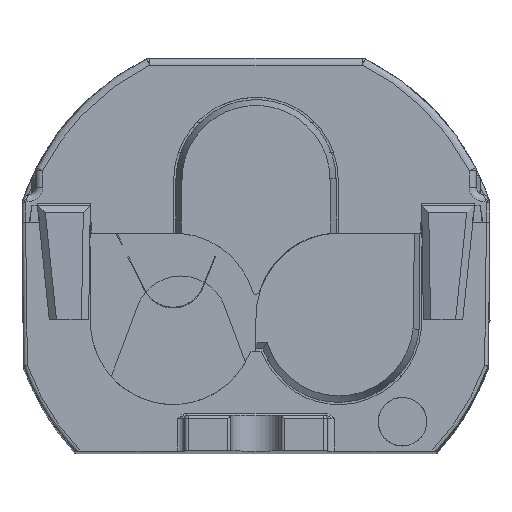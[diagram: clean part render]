
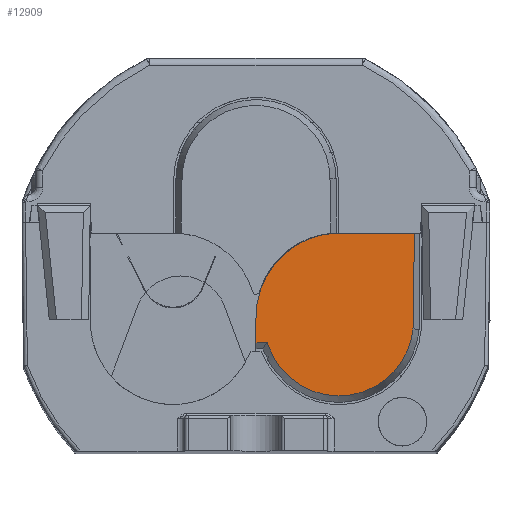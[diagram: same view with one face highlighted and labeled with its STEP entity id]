
A CAD part, top view. The second image highlights one B-rep face of the part: STEP entity #12909.
In plain terms, the highlighted planar face has unit normal (0, 0.009, 1).
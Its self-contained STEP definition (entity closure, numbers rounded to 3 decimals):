
#359 = DIRECTION ( 'NONE',  ( 0., -1., 0.009 ) ) ;
#859 = CARTESIAN_POINT ( 'NONE',  ( 3.543, 9.502, 106.379 ) ) ;
#921 = CARTESIAN_POINT ( 'NONE',  ( 10.185, 5.81, 106.411 ) ) ;
#985 = CARTESIAN_POINT ( 'NONE',  ( 17.319, 7.427, 106.397 ) ) ;
#1521 = CARTESIAN_POINT ( 'NONE',  ( 0., 16.75, 106.316 ) ) ;
#1586 = CARTESIAN_POINT ( 'NONE',  ( 0., 23.633, 106.256 ) ) ;
#1820 = VERTEX_POINT ( 'NONE', #8852 ) ;
#1853 = CARTESIAN_POINT ( 'NONE',  ( 0., 11.668, 106.36 ) ) ;
#2018 = DIRECTION ( 'NONE',  ( 1., 0., 0. ) ) ;
#2131 = PLANE ( 'NONE',  #12994 ) ;
#2404 = CARTESIAN_POINT ( 'NONE',  ( 4.145, 8.835, 106.385 ) ) ;
#2476 = CARTESIAN_POINT ( 'NONE',  ( 11.371, 5.705, 106.412 ) ) ;
#2549 = CARTESIAN_POINT ( 'NONE',  ( 18.509, 8.319, 106.389 ) ) ;
#3100 = CARTESIAN_POINT ( 'NONE',  ( 4.867, 28.5, 106.213 ) ) ;
#3243 = LINE ( 'NONE', #1853, #10980 ) ;
#3652 = CARTESIAN_POINT ( 'NONE',  ( -30.25, 30., 106.2 ) ) ;
#3693 = CARTESIAN_POINT ( 'NONE',  ( 11.75, 28.5, 106.213 ) ) ;
#3917 = CARTESIAN_POINT ( 'NONE',  ( 5.253, 7.842, 106.393 ) ) ;
#3982 = CARTESIAN_POINT ( 'NONE',  ( 12.865, 5.792, 106.411 ) ) ;
#4041 = CARTESIAN_POINT ( 'NONE',  ( 19.752, 9.624, 106.378 ) ) ;
#4224 = VERTEX_POINT ( 'NONE', #3693 ) ;
#4418 = ORIENTED_EDGE ( 'NONE', *, *, #11821, .F. ) ;
#5196 = DIRECTION ( 'NONE',  ( 0., -1., 0.009 ) ) ;
#5391 = CARTESIAN_POINT ( 'NONE',  ( 1.768, 12.604, 106.352 ) ) ;
#5458 = CARTESIAN_POINT ( 'NONE',  ( 6.257, 7.179, 106.399 ) ) ;
#5525 = CARTESIAN_POINT ( 'NONE',  ( 13.753, 5.941, 106.41 ) ) ;
#5592 = CARTESIAN_POINT ( 'NONE',  ( 20.745, 11.108, 106.365 ) ) ;
#6157 = CARTESIAN_POINT ( 'NONE',  ( -30.25, 28.5, 106.213 ) ) ;
#6269 = CARTESIAN_POINT ( 'NONE',  ( 0., 13.16, 106.347 ) ) ;
#6629 = CARTESIAN_POINT ( 'NONE',  ( 0.545, 13.16, 106.347 ) ) ;
#6954 = CARTESIAN_POINT ( 'NONE',  ( 1.993, 12.047, 106.357 ) ) ;
#7022 = CARTESIAN_POINT ( 'NONE',  ( 7.047, 6.755, 106.403 ) ) ;
#7096 = CARTESIAN_POINT ( 'NONE',  ( 14.905, 6.242, 106.407 ) ) ;
#7161 = CARTESIAN_POINT ( 'NONE',  ( 21.475, 12.755, 106.35 ) ) ;
#7265 = LINE ( 'NONE', #6157, #15016 ) ;
#7331 = LINE ( 'NONE', #6629, #19136 ) ;
#7528 = VECTOR ( 'NONE', #14256, 1000. ) ;
#7959 = ORIENTED_EDGE ( 'NONE', *, *, #9482, .T. ) ;
#7981 = LINE ( 'NONE', #12691, #7528 ) ;
#8509 = CARTESIAN_POINT ( 'NONE',  ( 2.512, 10.973, 106.366 ) ) ;
#8577 = CARTESIAN_POINT ( 'NONE',  ( 8.425, 6.193, 106.408 ) ) ;
#8634 = CARTESIAN_POINT ( 'NONE',  ( 16.282, 6.828, 106.402 ) ) ;
#8704 = CARTESIAN_POINT ( 'NONE',  ( 21.911, 14.486, 106.335 ) ) ;
#8852 = CARTESIAN_POINT ( 'NONE',  ( 0., 16.75, 106.316 ) ) ;
#9482 = EDGE_CURVE ( 'NONE', #18502, #14978, #13937, .T. ) ;
#9986 = CARTESIAN_POINT ( 'NONE',  ( 1.542, 13.16, 106.347 ) ) ;
#9991 = ORIENTED_EDGE ( 'NONE', *, *, #18332, .T. ) ;
#10060 = CARTESIAN_POINT ( 'NONE',  ( 3.354, 9.738, 106.377 ) ) ;
#10122 = CARTESIAN_POINT ( 'NONE',  ( 9.594, 5.907, 106.41 ) ) ;
#10195 = CARTESIAN_POINT ( 'NONE',  ( 17.068, 7.267, 106.398 ) ) ;
#10275 = CARTESIAN_POINT ( 'NONE',  ( 21.973, 15.086, 106.33 ) ) ;
#10980 = VECTOR ( 'NONE', #359, 1000. ) ;
#11366 = ORIENTED_EDGE ( 'NONE', *, *, #17793, .T. ) ;
#11617 = CARTESIAN_POINT ( 'NONE',  ( 3.939, 9.051, 106.383 ) ) ;
#11690 = CARTESIAN_POINT ( 'NONE',  ( 10.481, 5.774, 106.411 ) ) ;
#11763 = CARTESIAN_POINT ( 'NONE',  ( 18.051, 7.938, 106.393 ) ) ;
#11821 = EDGE_CURVE ( 'NONE', #4224, #17946, #7265, .T. ) ;
#12691 = CARTESIAN_POINT ( 'NONE',  ( 22.228, 32.048, 106.182 ) ) ;
#12893 = CARTESIAN_POINT ( 'NONE',  ( 1.542, 13.16, 106.347 ) ) ;
#12909 = ADVANCED_FACE ( 'NONE', ( #13902 ), #2131, .T. ) ;
#12994 = AXIS2_PLACEMENT_3D ( 'NONE', #3652, #14465, #5196 ) ;
#13186 = CARTESIAN_POINT ( 'NONE',  ( 4.79, 8.216, 106.39 ) ) ;
#13249 = CARTESIAN_POINT ( 'NONE',  ( 11.967, 5.709, 106.412 ) ) ;
#13323 = CARTESIAN_POINT ( 'NONE',  ( 19.365, 9.166, 106.382 ) ) ;
#13327 = VERTEX_POINT ( 'NONE', #6269 ) ;
#13902 = FACE_OUTER_BOUND ( 'NONE', #17386, .T. ) ;
#13925 = CARTESIAN_POINT ( 'NONE',  ( 11.75, 28.5, 106.213 ) ) ;
#13937 = B_SPLINE_CURVE_WITH_KNOTS ( 'NONE', 3,
 ( #9986, #16231, #5391, #6954, #17779, #8509, #19287, #10060, #859, #11617, #2404, #13186, #3917, #14739, #5458, #16302, #7022, #17833, #8577, #19360, #10122, #921, #11690, #2476, #13249, #3982, #14812, #5525, #16365, #7096, #17904, #8634, #19427, #10195, #985, #11763, #2549, #13323, #4041, #14885, #5592, #16420, #7161, #17980, #8704, #19491 ),
 .UNSPECIFIED., .F., .F.,
 ( 4, 2, 2, 2, 2, 2, 2, 2, 2, 2, 2, 2, 2, 2, 2, 2, 2, 2, 2, 2, 2, 2, 4 ),
 ( 0.125, 0.126, 0.127, 0.129, 0.13, 0.131, 0.133, 0.134, 0.134, 0.136, 0.137, 0.138, 0.14, 0.141, 0.142, 0.144, 0.145, 0.145, 0.147, 0.149, 0.151, 0.153, 0.155 ),
 .UNSPECIFIED. ) ;
#14256 = DIRECTION ( 'NONE',  ( 0.015, 1., -0.009 ) ) ;
#14465 = DIRECTION ( 'NONE',  ( 0., 0.009, 1. ) ) ;
#14739 = CARTESIAN_POINT ( 'NONE',  ( 5.999, 7.338, 106.398 ) ) ;
#14812 = CARTESIAN_POINT ( 'NONE',  ( 13.164, 5.834, 106.411 ) ) ;
#14885 = CARTESIAN_POINT ( 'NONE',  ( 20.441, 10.594, 106.369 ) ) ;
#14978 = VERTEX_POINT ( 'NONE', #10275 ) ;
#15016 = VECTOR ( 'NONE', #15414, 1000. ) ;
#15414 = DIRECTION ( 'NONE',  ( 1., 0., 0. ) ) ;
#15973 =( BOUNDED_CURVE ( )  B_SPLINE_CURVE ( 3, ( #1521, #1586, #3100, #13925 ),
 .UNSPECIFIED., .F., .F. ) 
 B_SPLINE_CURVE_WITH_KNOTS ( ( 4, 4 ),
 ( 1.571, 3.142 ),
 .UNSPECIFIED. ) 
 CURVE ( )  GEOMETRIC_REPRESENTATION_ITEM ( )  RATIONAL_B_SPLINE_CURVE ( ( 1., 0.805, 0.805, 1. ) ) 
 REPRESENTATION_ITEM ( '' )  );
#16154 = ORIENTED_EDGE ( 'NONE', *, *, #18790, .F. ) ;
#16231 = CARTESIAN_POINT ( 'NONE',  ( 1.655, 12.882, 106.349 ) ) ;
#16302 = CARTESIAN_POINT ( 'NONE',  ( 6.781, 6.888, 106.402 ) ) ;
#16365 = CARTESIAN_POINT ( 'NONE',  ( 14.043, 6.007, 106.409 ) ) ;
#16420 = CARTESIAN_POINT ( 'NONE',  ( 21.265, 12.195, 106.355 ) ) ;
#17386 = EDGE_LOOP ( 'NONE', ( #16154, #11366, #9991, #7959, #19541, #4418 ) ) ;
#17779 = CARTESIAN_POINT ( 'NONE',  ( 2.113, 11.773, 106.359 ) ) ;
#17793 = EDGE_CURVE ( 'NONE', #1820, #13327, #3243, .T. ) ;
#17833 = CARTESIAN_POINT ( 'NONE',  ( 7.862, 6.389, 106.406 ) ) ;
#17904 = CARTESIAN_POINT ( 'NONE',  ( 15.465, 6.446, 106.406 ) ) ;
#17946 = VERTEX_POINT ( 'NONE', #19273 ) ;
#17980 = CARTESIAN_POINT ( 'NONE',  ( 21.798, 13.9, 106.34 ) ) ;
#18332 = EDGE_CURVE ( 'NONE', #13327, #18502, #7331, .T. ) ;
#18502 = VERTEX_POINT ( 'NONE', #12893 ) ;
#18790 = EDGE_CURVE ( 'NONE', #1820, #4224, #15973, .T. ) ;
#19136 = VECTOR ( 'NONE', #2018, 1000. ) ;
#19273 = CARTESIAN_POINT ( 'NONE',  ( 22.175, 28.5, 106.213 ) ) ;
#19287 = CARTESIAN_POINT ( 'NONE',  ( 2.822, 10.464, 106.37 ) ) ;
#19360 = CARTESIAN_POINT ( 'NONE',  ( 9.298, 5.969, 106.41 ) ) ;
#19427 = CARTESIAN_POINT ( 'NONE',  ( 16.55, 6.968, 106.401 ) ) ;
#19491 = CARTESIAN_POINT ( 'NONE',  ( 21.973, 15.086, 106.33 ) ) ;
#19541 = ORIENTED_EDGE ( 'NONE', *, *, #19706, .T. ) ;
#19706 = EDGE_CURVE ( 'NONE', #14978, #17946, #7981, .T. ) ;
